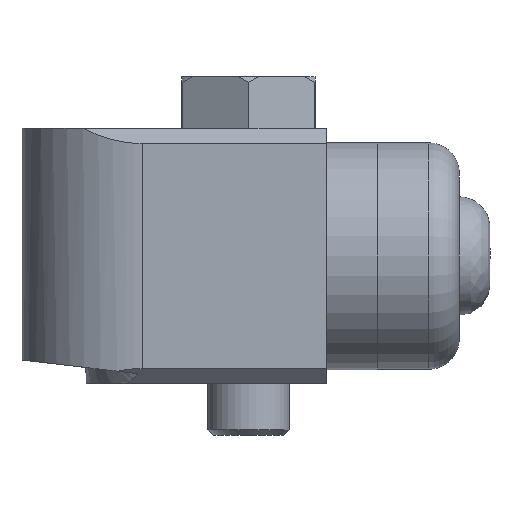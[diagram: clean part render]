
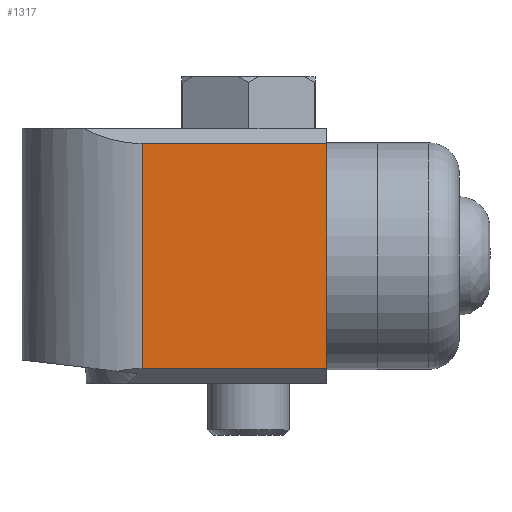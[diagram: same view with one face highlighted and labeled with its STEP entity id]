
A CAD part, left-side view. The second image highlights one B-rep face of the part: STEP entity #1317.
In plain terms, the highlighted planar face has unit normal (-1, 0, 0).
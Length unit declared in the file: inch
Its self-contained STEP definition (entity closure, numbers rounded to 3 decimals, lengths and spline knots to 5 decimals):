
#83=LINE('',#2133,#148);
#84=LINE('',#2135,#149);
#85=LINE('',#2137,#150);
#86=LINE('',#2138,#151);
#148=VECTOR('',#1691,0.3937);
#149=VECTOR('',#1692,0.3937);
#150=VECTOR('',#1693,0.3937);
#151=VECTOR('',#1694,0.3937);
#246=FACE_OUTER_BOUND('',#324,.T.);
#324=EDGE_LOOP('',(#890,#891,#892,#893));
#525=VERTEX_POINT('',#2131);
#526=VERTEX_POINT('',#2132);
#527=VERTEX_POINT('',#2134);
#528=VERTEX_POINT('',#2136);
#670=EDGE_CURVE('',#525,#526,#83,.T.);
#671=EDGE_CURVE('',#525,#527,#84,.T.);
#672=EDGE_CURVE('',#528,#527,#85,.T.);
#673=EDGE_CURVE('',#526,#528,#86,.T.);
#890=ORIENTED_EDGE('',*,*,#670,.F.);
#891=ORIENTED_EDGE('',*,*,#671,.T.);
#892=ORIENTED_EDGE('',*,*,#672,.F.);
#893=ORIENTED_EDGE('',*,*,#673,.F.);
#1195=PLANE('',#1446);
#1317=ADVANCED_FACE('',(#246),#1195,.T.);
#1446=AXIS2_PLACEMENT_3D('',#2130,#1689,#1690);
#1689=DIRECTION('center_axis',(-1.,0.,0.));
#1690=DIRECTION('ref_axis',(0.,0.,1.));
#1691=DIRECTION('',(0.,1.,0.));
#1692=DIRECTION('',(0.,0.,1.));
#1693=DIRECTION('',(0.,-1.,0.));
#1694=DIRECTION('',(0.,0.,1.));
#2130=CARTESIAN_POINT('Origin',(-1.92255,-1.33419,-0.11957));
#2131=CARTESIAN_POINT('',(-1.92255,-1.68852,-0.11953));
#2132=CARTESIAN_POINT('',(-1.92255,-0.97985,-0.11953));
#2133=CARTESIAN_POINT('',(-1.92255,-1.68852,-0.11953));
#2134=CARTESIAN_POINT('',(-1.92255,-1.68852,0.74661));
#2135=CARTESIAN_POINT('',(-1.92255,-1.68852,-0.11953));
#2136=CARTESIAN_POINT('',(-1.92255,-0.97985,0.74661));
#2137=CARTESIAN_POINT('',(-1.92255,-0.97985,0.74661));
#2138=CARTESIAN_POINT('',(-1.92255,-0.97985,-0.11953));
